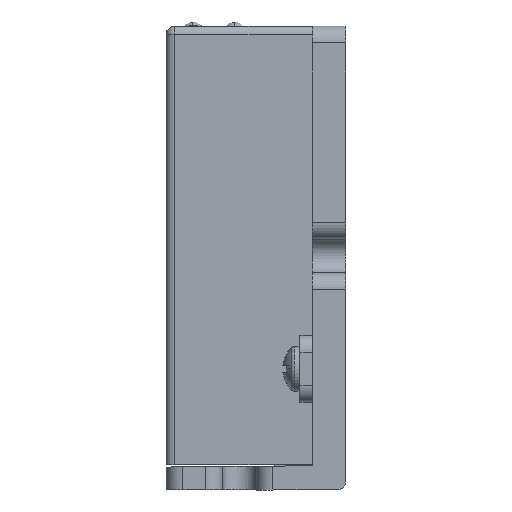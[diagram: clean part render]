
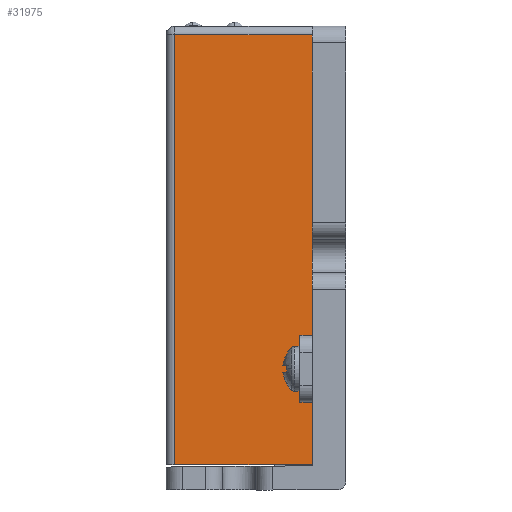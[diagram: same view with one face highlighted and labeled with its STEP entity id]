
A CAD part, left-side view. The second image highlights one B-rep face of the part: STEP entity #31975.
In plain terms, the highlighted planar face has unit normal (-1, 0, 0).
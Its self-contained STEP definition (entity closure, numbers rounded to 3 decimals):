
#248 = DIRECTION ( 'NONE',  ( 0., 1., 0. ) ) ;
#1276 = LINE ( 'NONE', #50241, #44735 ) ;
#2713 = CARTESIAN_POINT ( 'NONE',  ( -36.75, 11.8, -26. ) ) ;
#3593 = VECTOR ( 'NONE', #29419, 1000. ) ;
#3624 = EDGE_CURVE ( 'NONE', #51970, #31781, #37156, .T. ) ;
#4270 = VECTOR ( 'NONE', #11246, 1000. ) ;
#4417 = ORIENTED_EDGE ( 'NONE', *, *, #18567, .F. ) ;
#4672 = DIRECTION ( 'NONE',  ( 0., 0., 1. ) ) ;
#5166 = EDGE_CURVE ( 'NONE', #7121, #31781, #16505, .T. ) ;
#5325 = ORIENTED_EDGE ( 'NONE', *, *, #5166, .F. ) ;
#6338 = CARTESIAN_POINT ( 'NONE',  ( -36.75, -4.7, -10.5 ) ) ;
#6519 = DIRECTION ( 'NONE',  ( -1., 0., 0. ) ) ;
#6784 = DIRECTION ( 'NONE',  ( 0., -1., 0. ) ) ;
#7121 = VERTEX_POINT ( 'NONE', #6338 ) ;
#11246 = DIRECTION ( 'NONE',  ( 0., 0., 1. ) ) ;
#12221 = LINE ( 'NONE', #23555, #33164 ) ;
#12846 = CARTESIAN_POINT ( 'NONE',  ( -36.75, -4.7, -27.03 ) ) ;
#13774 = VERTEX_POINT ( 'NONE', #14643 ) ;
#14643 = CARTESIAN_POINT ( 'NONE',  ( -36.75, -4.7, 25.5 ) ) ;
#14805 = PLANE ( 'NONE',  #19959 ) ;
#16085 = LINE ( 'NONE', #12846, #24679 ) ;
#16505 = LINE ( 'NONE', #51481, #38842 ) ;
#16803 = LINE ( 'NONE', #53021, #4270 ) ;
#17667 = VECTOR ( 'NONE', #45746, 1000. ) ;
#18019 = VERTEX_POINT ( 'NONE', #33008 ) ;
#18567 = EDGE_CURVE ( 'NONE', #51970, #29223, #41567, .T. ) ;
#19849 = EDGE_CURVE ( 'NONE', #21395, #34389, #38677, .T. ) ;
#19959 = AXIS2_PLACEMENT_3D ( 'NONE', #31686, #6519, #35949 ) ;
#21317 = ORIENTED_EDGE ( 'NONE', *, *, #21368, .T. ) ;
#21368 = EDGE_CURVE ( 'NONE', #21395, #18019, #12221, .T. ) ;
#21395 = VERTEX_POINT ( 'NONE', #2713 ) ;
#22022 = CARTESIAN_POINT ( 'NONE',  ( -36.75, -3.2, -10.5 ) ) ;
#23555 = CARTESIAN_POINT ( 'NONE',  ( -36.75, -5.05, -26. ) ) ;
#24679 = VECTOR ( 'NONE', #4672, 1000. ) ;
#24798 = EDGE_CURVE ( 'NONE', #7121, #13774, #16085, .T. ) ;
#26884 = ORIENTED_EDGE ( 'NONE', *, *, #19849, .F. ) ;
#29087 = VECTOR ( 'NONE', #36822, 1000. ) ;
#29115 = ORIENTED_EDGE ( 'NONE', *, *, #3624, .T. ) ;
#29223 = VERTEX_POINT ( 'NONE', #44018 ) ;
#29419 = DIRECTION ( 'NONE',  ( 0., 0., 1. ) ) ;
#30421 = CARTESIAN_POINT ( 'NONE',  ( -36.75, -3.2, -27.03 ) ) ;
#31686 = CARTESIAN_POINT ( 'NONE',  ( -36.75, 12.13, -27.03 ) ) ;
#31781 = VERTEX_POINT ( 'NONE', #22022 ) ;
#31975 = ADVANCED_FACE ( 'NONE', ( #38160 ), #14805, .T. ) ;
#33008 = CARTESIAN_POINT ( 'NONE',  ( -36.75, -4.7, -26. ) ) ;
#33164 = VECTOR ( 'NONE', #6784, 1000. ) ;
#34389 = VERTEX_POINT ( 'NONE', #43551 ) ;
#35949 = DIRECTION ( 'NONE',  ( 0., 0., 1. ) ) ;
#36424 = EDGE_CURVE ( 'NONE', #13774, #34389, #1276, .T. ) ;
#36822 = DIRECTION ( 'NONE',  ( 0., -1., 0. ) ) ;
#37156 = LINE ( 'NONE', #30421, #3593 ) ;
#38160 = FACE_OUTER_BOUND ( 'NONE', #45600, .T. ) ;
#38677 = LINE ( 'NONE', #41512, #17667 ) ;
#38842 = VECTOR ( 'NONE', #51420, 1000. ) ;
#39200 = ORIENTED_EDGE ( 'NONE', *, *, #24798, .T. ) ;
#40716 = CARTESIAN_POINT ( 'NONE',  ( -36.75, -3.2, -18.5 ) ) ;
#41512 = CARTESIAN_POINT ( 'NONE',  ( -36.75, 11.8, 25.5 ) ) ;
#41567 = LINE ( 'NONE', #49283, #29087 ) ;
#43551 = CARTESIAN_POINT ( 'NONE',  ( -36.75, 11.8, 25.5 ) ) ;
#44018 = CARTESIAN_POINT ( 'NONE',  ( -36.75, -4.7, -18.5 ) ) ;
#44735 = VECTOR ( 'NONE', #248, 1000. ) ;
#45600 = EDGE_LOOP ( 'NONE', ( #26884, #21317, #49390, #4417, #29115, #5325, #39200, #49148 ) ) ;
#45746 = DIRECTION ( 'NONE',  ( 0., 0., 1. ) ) ;
#49148 = ORIENTED_EDGE ( 'NONE', *, *, #36424, .T. ) ;
#49283 = CARTESIAN_POINT ( 'NONE',  ( -36.75, -4.824, -18.5 ) ) ;
#49390 = ORIENTED_EDGE ( 'NONE', *, *, #54348, .T. ) ;
#50241 = CARTESIAN_POINT ( 'NONE',  ( -36.75, 12.13, 25.5 ) ) ;
#51420 = DIRECTION ( 'NONE',  ( 0., 1., 0. ) ) ;
#51481 = CARTESIAN_POINT ( 'NONE',  ( -36.75, -4.824, -10.5 ) ) ;
#51970 = VERTEX_POINT ( 'NONE', #40716 ) ;
#53021 = CARTESIAN_POINT ( 'NONE',  ( -36.75, -4.7, -27.03 ) ) ;
#54348 = EDGE_CURVE ( 'NONE', #18019, #29223, #16803, .T. ) ;
